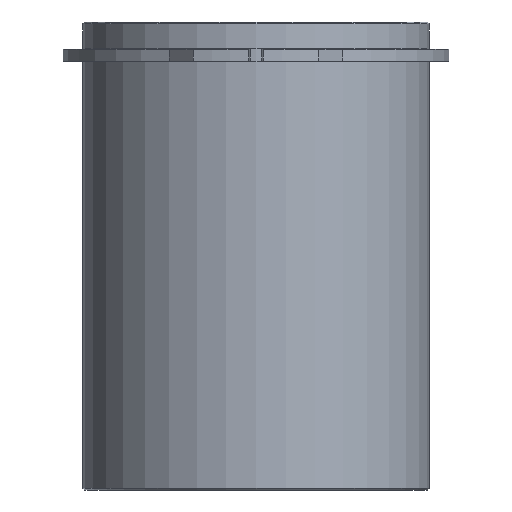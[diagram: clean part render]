
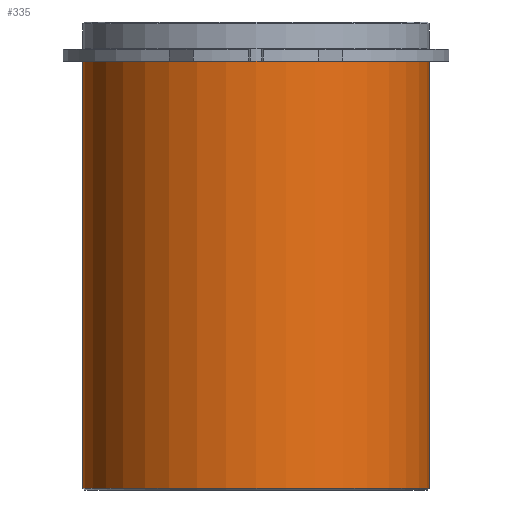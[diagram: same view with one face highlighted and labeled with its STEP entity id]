
A CAD part, front view. The second image highlights one B-rep face of the part: STEP entity #335.
In plain terms, the highlighted cylindrical face has radius 29.625 mm (diameter 59.25 mm), a partial arc.
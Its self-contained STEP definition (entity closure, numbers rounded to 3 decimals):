
#294=CARTESIAN_POINT('',(0.0,0.,-36.5));
#295=DIRECTION('',(0.0,0.,1.0));
#296=DIRECTION('',(1.0,0.0,0.0));
#297=AXIS2_PLACEMENT_3D('',#294,#295,#296);
#298=CYLINDRICAL_SURFACE('',#297,29.625);
#299=CARTESIAN_POINT('',(29.625,0.0,0.0));
#300=VERTEX_POINT('',#299);
#301=CARTESIAN_POINT('',(29.625,0.,-73.0));
#302=VERTEX_POINT('',#301);
#303=CARTESIAN_POINT('',(29.625,0.0,0.0));
#304=DIRECTION('',(0.0,0.0,-1.0));
#305=VECTOR('',#304,73.0);
#306=LINE('',#303,#305);
#307=EDGE_CURVE('',#300,#302,#306,.T.);
#308=ORIENTED_EDGE('',*,*,#307,.F.);
#309=CARTESIAN_POINT('',(-29.625,0.,0.0));
#310=VERTEX_POINT('',#309);
#311=CARTESIAN_POINT('',(0.0,0.0,0.0));
#312=DIRECTION('',(0.0,0.0,1.0));
#313=DIRECTION('',(1.0,0.0,0.0));
#314=AXIS2_PLACEMENT_3D('',#311,#312,#313);
#315=CIRCLE('',#314,29.625);
#316=EDGE_CURVE('',#310,#300,#315,.T.);
#317=ORIENTED_EDGE('',*,*,#316,.F.);
#318=CARTESIAN_POINT('',(-29.625,0.,-73.0));
#319=VERTEX_POINT('',#318);
#320=CARTESIAN_POINT('',(-29.625,0.,0.0));
#321=DIRECTION('',(0.0,0.0,-1.0));
#322=VECTOR('',#321,73.0);
#323=LINE('',#320,#322);
#324=EDGE_CURVE('',#310,#319,#323,.T.);
#325=ORIENTED_EDGE('',*,*,#324,.T.);
#326=CARTESIAN_POINT('',(0.0,0.,-73.0));
#327=DIRECTION('',(0.0,0.0,1.0));
#328=DIRECTION('',(1.0,0.0,0.0));
#329=AXIS2_PLACEMENT_3D('',#326,#327,#328);
#330=CIRCLE('',#329,29.625);
#331=EDGE_CURVE('',#319,#302,#330,.T.);
#332=ORIENTED_EDGE('',*,*,#331,.T.);
#333=EDGE_LOOP('',(#308,#317,#325,#332));
#334=FACE_OUTER_BOUND('',#333,.T.);
#335=ADVANCED_FACE('',(#334),#298,.T.);
